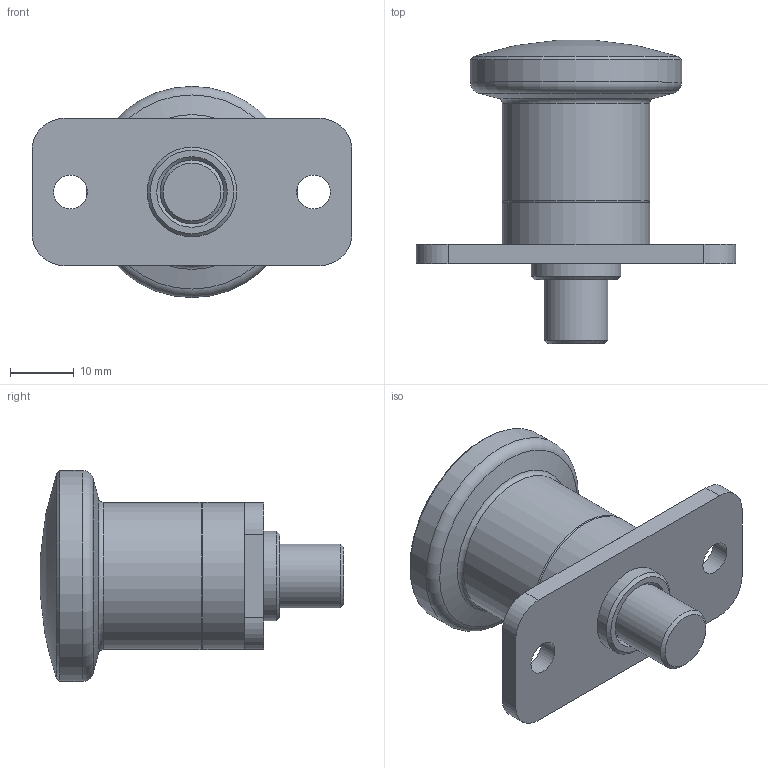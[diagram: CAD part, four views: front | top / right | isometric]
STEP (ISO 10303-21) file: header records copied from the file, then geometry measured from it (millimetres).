
FILE_DESCRIPTION( ( 'STEP AP203' ), '1' );
FILE_NAME( 'C:/Temp/Ganter_Step_05_03_2020/data/3_1/gn822_9/gn822_9_b/Stainless Steel-Mini indexing plunger GN 822.9-10-10-B (deactivated).stp', '2020-03-12T09:24:36', ( 'License CC BY-ND 4.0' ), ( 'CADENAS' ), ' ', 'PARTsolutions', ' ' );
FILE_SCHEMA( ( 'CONFIG_CONTROL_DESIGN' ) );
Length unit declared in the file: millimetre
Products named in the file (3): Stainless Steel-Mini indexing plunger GN 822.9-10-10-B (deactivated); _Stainless Steel-Mini indexing plunger GN 822.9-10-10-B (deactivated)_1; _Stainless Steel-Mini indexing plunger GN 822.9-10-10-B (unbetaetigt)_2
Assembly tree (2 placements, depth 2):
  Stainless Steel-Mini indexing plunger GN 822.9-10-10-B (deactivated)
    _Stainless Steel-Mini indexing plunger GN 822.9-10-10-B (deactivated)_1
    _Stainless Steel-Mini indexing plunger GN 822.9-10-10-B (unbetaetigt)_2
Bounding box: 50 x 47.42 x 33 mm (x, y, z)
Volume: 19587.5 mm3; surface area: 11456 mm2
Topology: 2 solids, 2 shells, 66 faces, 155 edges, 99 vertices
Faces by surface type: plane 34, cylinder 20, cone 8, torus 3, sphere 1
Full cylindrical faces by diameter (mm): 5.3 x2, 7.5 x2, 10 x2, 14 x1, 23 x2, 33 x1
Entity records: 1998 total; most frequent: CARTESIAN_POINT 447, DIRECTION 308, ORIENTED_EDGE 260, EDGE_CURVE 130, AXIS2_PLACEMENT_3D 121, EDGE_LOOP 100, VERTEX_POINT 96, FACE_OUTER_BOUND 80
